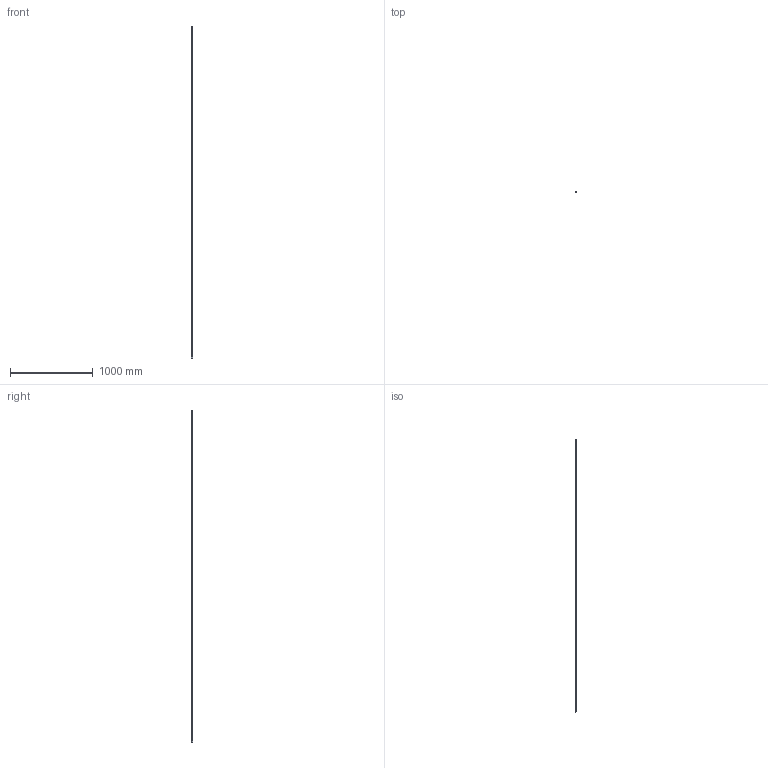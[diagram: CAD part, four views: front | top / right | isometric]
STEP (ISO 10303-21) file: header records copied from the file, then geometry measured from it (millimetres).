
FILE_DESCRIPTION (( 'STEP AP203' ), '1' );
FILE_NAME ('TR15-4000.STEP', '2019-05-29T10:23:24', ( '' ), ( '' ), 'SwSTEP 2.0', 'SolidWorks 2016', '' );
FILE_SCHEMA (( 'CONFIG_CONTROL_DESIGN' ));
Length unit declared in the file: millimetre
Products named in the file (1): TR15-4000
Bounding box: 15 x 15 x 4000 mm (x, y, z)
Volume: 797505 mm3; surface area: 255572.9 mm2
Topology: 1 solids, 1 shells, 495 faces, 1144 edges, 651 vertices
Faces by surface type: cylinder 274, cone 134, plane 87
Entity records: 13233 total; most frequent: DIRECTION 2550, CARTESIAN_POINT 2157, ORIENTED_EDGE 2020, AXIS2_PLACEMENT_3D 1044, EDGE_CURVE 1010, VERTEX_POINT 651, EDGE_LOOP 629, CIRCLE 548
